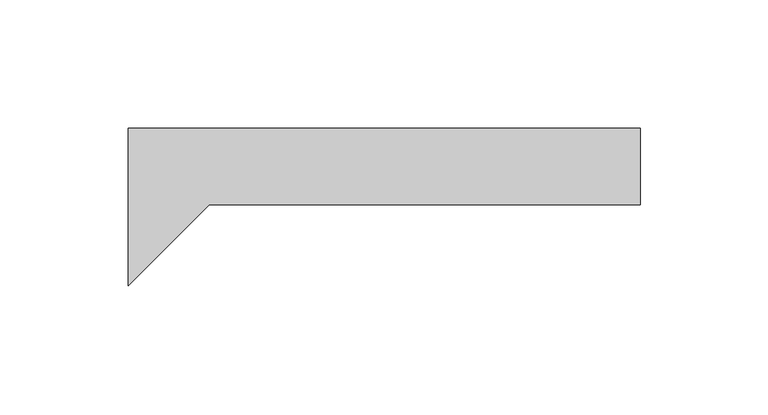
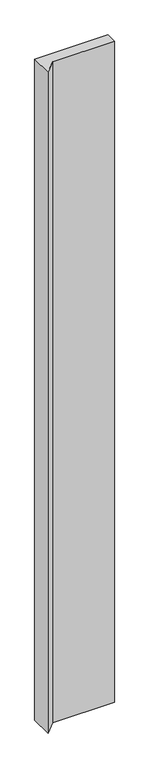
"""IFC4 building model written with IfcOpenShell, lengths in millimetres: plate geometry, ATELIERS 3S_EPURE CDB 200_VERTICAL : AZURO."""

from ifc_helpers import new_model, si_unit, origin, origin_with_axes, place, context, project, spatial, polyline, outline, extrude, source, transform, mapped, element, save


def plate_a9dbc21c(model_context):
    return source(origin(), model_context, "Body", "SweptSolid", [
        extrude(outline(polyline([(99.9999998, -29.9980469), (-68.292885, -29.9980469), (-100.0000002, -61.705162), (-100.0000002, 0.0), (99.9999998, 0.0), (99.9999998, -29.9980469)])), origin_with_axes(), (0.0, 0.0, 1.0), 1900.0),
    ])


if __name__ == "__main__":
    model = new_model("IFC4")
    model_context = context("Model", 3, world=origin())
    ifc_project = project(units=[si_unit("LENGTHUNIT", "METRE", prefix="MILLI")], contexts=[model_context])
    site = spatial("IfcSite", under=ifc_project)
    building = spatial("IfcBuilding", under=site)
    placement = place(None, origin())
    plate_shape = plate_a9dbc21c(model_context)
    element("IfcPlate", 1, ObjectType="ATELIERS 3S_EPURE CDB 200_VERTICAL : AZURO", at=placement, inside=building, context=model_context, shape_type="MappedRepresentation", body=[
        mapped(plate_shape, transform((0.0, 0.0, 0.0), x_axis=(1.0, 0.0, 0.0), y_axis=(0.0, 1.0, 0.0), z_axis=(0.0, 0.0, 1.0))),
    ])
    save(model, "model.ifc")
